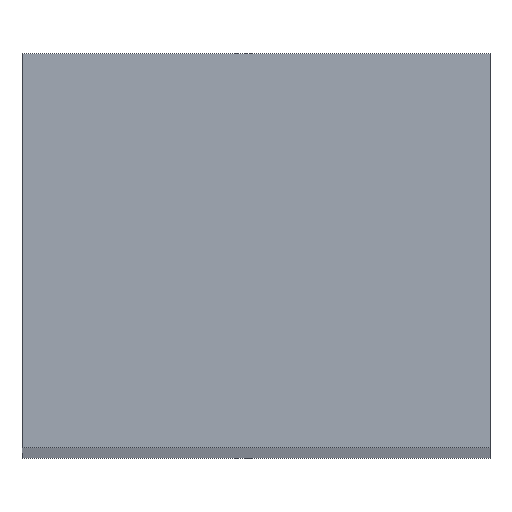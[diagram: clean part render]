
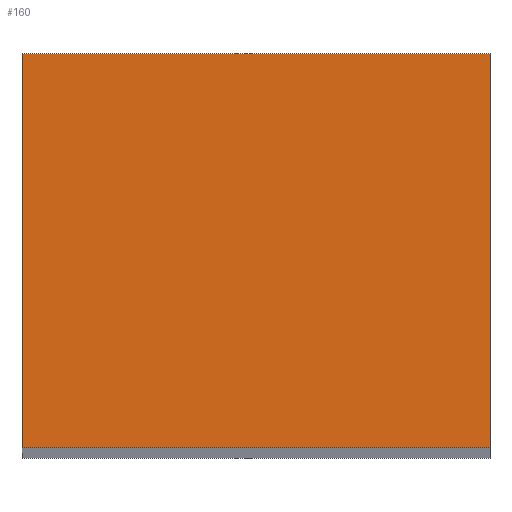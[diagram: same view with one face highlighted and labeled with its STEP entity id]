
A CAD part, top view. The second image highlights one B-rep face of the part: STEP entity #160.
In plain terms, the highlighted planar face has unit normal (0, 0, 1).
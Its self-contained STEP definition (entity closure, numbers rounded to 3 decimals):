
#4 = EDGE_CURVE ( 'NONE', #232, #98, #428, .T. ) ;
#12 = DIRECTION ( 'NONE',  ( -1., 0., 0. ) ) ;
#29 = EDGE_CURVE ( 'NONE', #271, #232, #152, .T. ) ;
#82 = EDGE_CURVE ( 'NONE', #98, #278, #250, .T. ) ;
#98 = VERTEX_POINT ( 'NONE', #246 ) ;
#102 = DIRECTION ( 'NONE',  ( 0., 1., 0. ) ) ;
#104 = DIRECTION ( 'NONE',  ( 0., -1., 0. ) ) ;
#105 = CARTESIAN_POINT ( 'NONE',  ( 9.5, 8., 250. ) ) ;
#117 = ORIENTED_EDGE ( 'NONE', *, *, #331, .T. ) ;
#118 = CARTESIAN_POINT ( 'NONE',  ( -9.5, 8., 250. ) ) ;
#130 = CARTESIAN_POINT ( 'NONE',  ( -9.5, 8., 250. ) ) ;
#137 = VECTOR ( 'NONE', #281, 1000. ) ;
#152 = LINE ( 'NONE', #118, #373 ) ;
#157 = CARTESIAN_POINT ( 'NONE',  ( -9.5, -8., 250. ) ) ;
#160 = ADVANCED_FACE ( 'NONE', ( #323 ), #256, .T. ) ;
#171 = VECTOR ( 'NONE', #104, 1000. ) ;
#178 = CARTESIAN_POINT ( 'NONE',  ( 9.5, -8., 250. ) ) ;
#224 = DIRECTION ( 'NONE',  ( 1., 0., 0. ) ) ;
#229 = DIRECTION ( 'NONE',  ( 0., 0., 1. ) ) ;
#232 = VERTEX_POINT ( 'NONE', #395 ) ;
#246 = CARTESIAN_POINT ( 'NONE',  ( -9.5, -8., 250. ) ) ;
#250 = LINE ( 'NONE', #157, #137 ) ;
#256 = PLANE ( 'NONE',  #333 ) ;
#269 = LINE ( 'NONE', #105, #357 ) ;
#271 = VERTEX_POINT ( 'NONE', #366 ) ;
#278 = VERTEX_POINT ( 'NONE', #178 ) ;
#281 = DIRECTION ( 'NONE',  ( 1., 0., 0. ) ) ;
#323 = FACE_OUTER_BOUND ( 'NONE', #354, .T. ) ;
#331 = EDGE_CURVE ( 'NONE', #278, #271, #269, .T. ) ;
#333 = AXIS2_PLACEMENT_3D ( 'NONE', #397, #229, #224 ) ;
#354 = EDGE_LOOP ( 'NONE', ( #117, #365, #433, #368 ) ) ;
#357 = VECTOR ( 'NONE', #102, 1000. ) ;
#365 = ORIENTED_EDGE ( 'NONE', *, *, #29, .T. ) ;
#366 = CARTESIAN_POINT ( 'NONE',  ( 9.5, 8., 250. ) ) ;
#368 = ORIENTED_EDGE ( 'NONE', *, *, #82, .T. ) ;
#373 = VECTOR ( 'NONE', #12, 1000. ) ;
#395 = CARTESIAN_POINT ( 'NONE',  ( -9.5, 8., 250. ) ) ;
#397 = CARTESIAN_POINT ( 'NONE',  ( 0., 0., 250. ) ) ;
#428 = LINE ( 'NONE', #130, #171 ) ;
#433 = ORIENTED_EDGE ( 'NONE', *, *, #4, .T. ) ;
